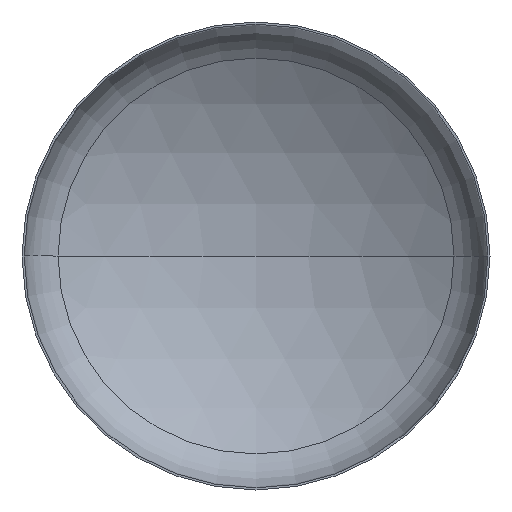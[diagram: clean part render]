
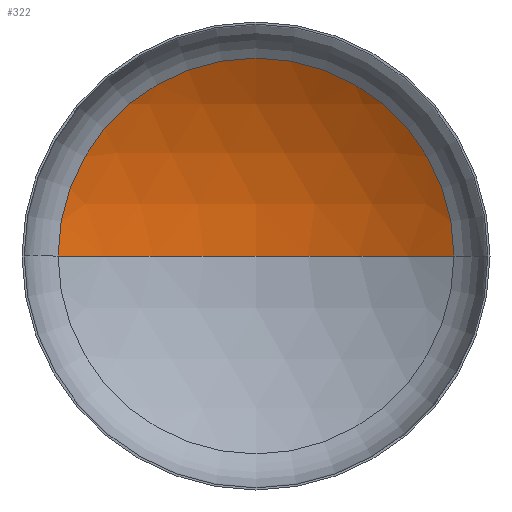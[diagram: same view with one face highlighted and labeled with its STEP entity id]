
A CAD part, front view. The second image highlights one B-rep face of the part: STEP entity #322.
In plain terms, the highlighted spherical face has radius 6400 mm.
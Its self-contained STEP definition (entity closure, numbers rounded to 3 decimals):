
#19 = AXIS2_PLACEMENT_3D ( 'NONE', #32, #355, #215 ) ;
#27 = VERTEX_POINT ( 'NONE', #265 ) ;
#31 = EDGE_LOOP ( 'NONE', ( #256, #109, #99 ) ) ;
#32 = CARTESIAN_POINT ( 'NONE',  ( 0., -4268.577, 0. ) ) ;
#61 = VERTEX_POINT ( 'NONE', #247 ) ;
#82 = AXIS2_PLACEMENT_3D ( 'NONE', #191, #341, #213 ) ;
#83 = AXIS2_PLACEMENT_3D ( 'NONE', #146, #323, #400 ) ;
#89 = AXIS2_PLACEMENT_3D ( 'NONE', #164, #401, #280 ) ;
#99 = ORIENTED_EDGE ( 'NONE', *, *, #155, .T. ) ;
#102 = CARTESIAN_POINT ( 'NONE',  ( 3383.211, 1164.091, 0. ) ) ;
#109 = ORIENTED_EDGE ( 'NONE', *, *, #157, .T. ) ;
#146 = CARTESIAN_POINT ( 'NONE',  ( 0., -4268.577, 0. ) ) ;
#155 = EDGE_CURVE ( 'NONE', #196, #61, #161, .T. ) ;
#157 = EDGE_CURVE ( 'NONE', #27, #196, #339, .T. ) ;
#160 = EDGE_CURVE ( 'NONE', #27, #61, #225, .T. ) ;
#161 = CIRCLE ( 'NONE', #89, 3383.211 ) ;
#164 = CARTESIAN_POINT ( 'NONE',  ( 0., 1164.091, 0. ) ) ;
#191 = CARTESIAN_POINT ( 'NONE',  ( 0., -4268.577, 0. ) ) ;
#196 = VERTEX_POINT ( 'NONE', #102 ) ;
#213 = DIRECTION ( 'NONE',  ( 1., 0., 0. ) ) ;
#215 = DIRECTION ( 'NONE',  ( -1., 0., 0. ) ) ;
#225 = CIRCLE ( 'NONE', #82, 6400. ) ;
#247 = CARTESIAN_POINT ( 'NONE',  ( -3383.211, 1164.091, 0. ) ) ;
#256 = ORIENTED_EDGE ( 'NONE', *, *, #160, .F. ) ;
#261 = SPHERICAL_SURFACE ( 'NONE', #19, 6400. ) ;
#265 = CARTESIAN_POINT ( 'NONE',  ( 0., 2131.423, 0. ) ) ;
#280 = DIRECTION ( 'NONE',  ( 1., 0., 0. ) ) ;
#318 = FACE_OUTER_BOUND ( 'NONE', #31, .T. ) ;
#322 = ADVANCED_FACE ( 'NONE', ( #318 ), #261, .F. ) ;
#323 = DIRECTION ( 'NONE',  ( 0., 0., -1. ) ) ;
#339 = CIRCLE ( 'NONE', #83, 6400. ) ;
#341 = DIRECTION ( 'NONE',  ( 0., 0., 1. ) ) ;
#355 = DIRECTION ( 'NONE',  ( 0., 0., -1. ) ) ;
#400 = DIRECTION ( 'NONE',  ( -1., 0., 0. ) ) ;
#401 = DIRECTION ( 'NONE',  ( 0., -1., 0. ) ) ;
